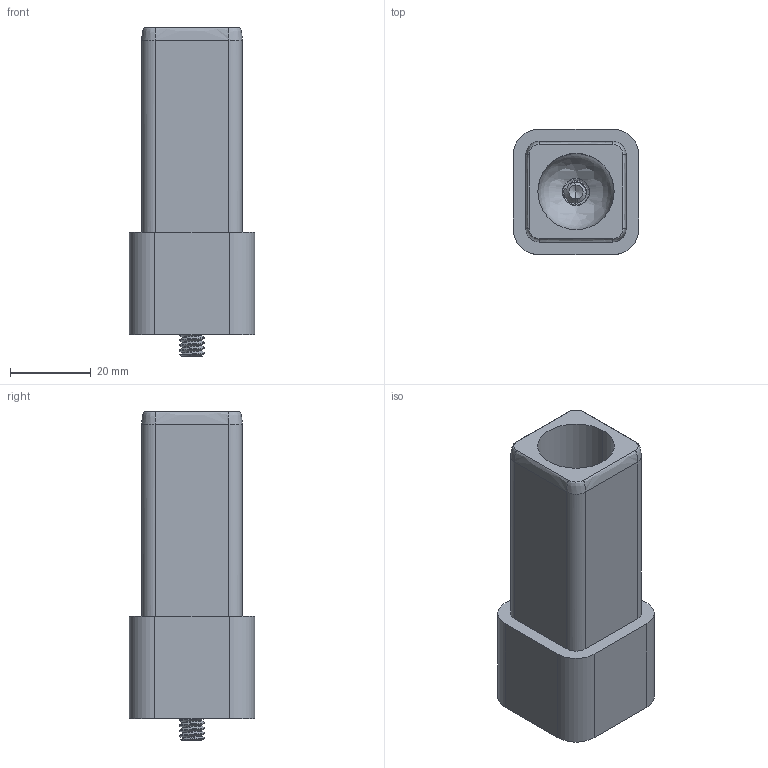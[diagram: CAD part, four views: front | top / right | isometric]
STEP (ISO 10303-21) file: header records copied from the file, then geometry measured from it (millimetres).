
FILE_DESCRIPTION (( 'STEP AP203' ), '1' );
FILE_NAME ('FDPCK-MCS1-END-STUD-S.STEP', '2019-09-11T19:13:53', ( 'ydmin' ), ( '' ), 'SwSTEP 2.0', 'SolidWorks 2017', '' );
FILE_SCHEMA (( 'CONFIG_CONTROL_DESIGN' ));
Length unit declared in the file: inch
Products named in the file (1): FDPCK-MCS1-END-STUD-S
Bounding box: 31.11 x 31.11 x 81.53 mm (x, y, z)
Volume: 40987.5 mm3; surface area: 14114 mm2
Topology: 3 solids, 3 shells, 105 faces, 265 edges, 165 vertices
Faces by surface type: cylinder 41, plane 26, bspline 20, cone 18
Entity records: 9274 total; most frequent: CARTESIAN_POINT 7017, ORIENTED_EDGE 522, DIRECTION 379, EDGE_CURVE 261, VERTEX_POINT 165, AXIS2_PLACEMENT_3D 133, VECTOR 113, LINE 113
